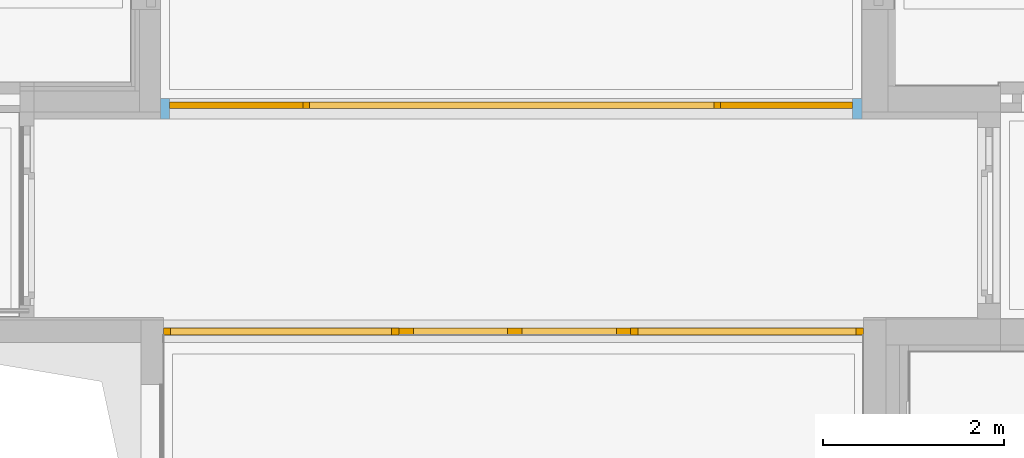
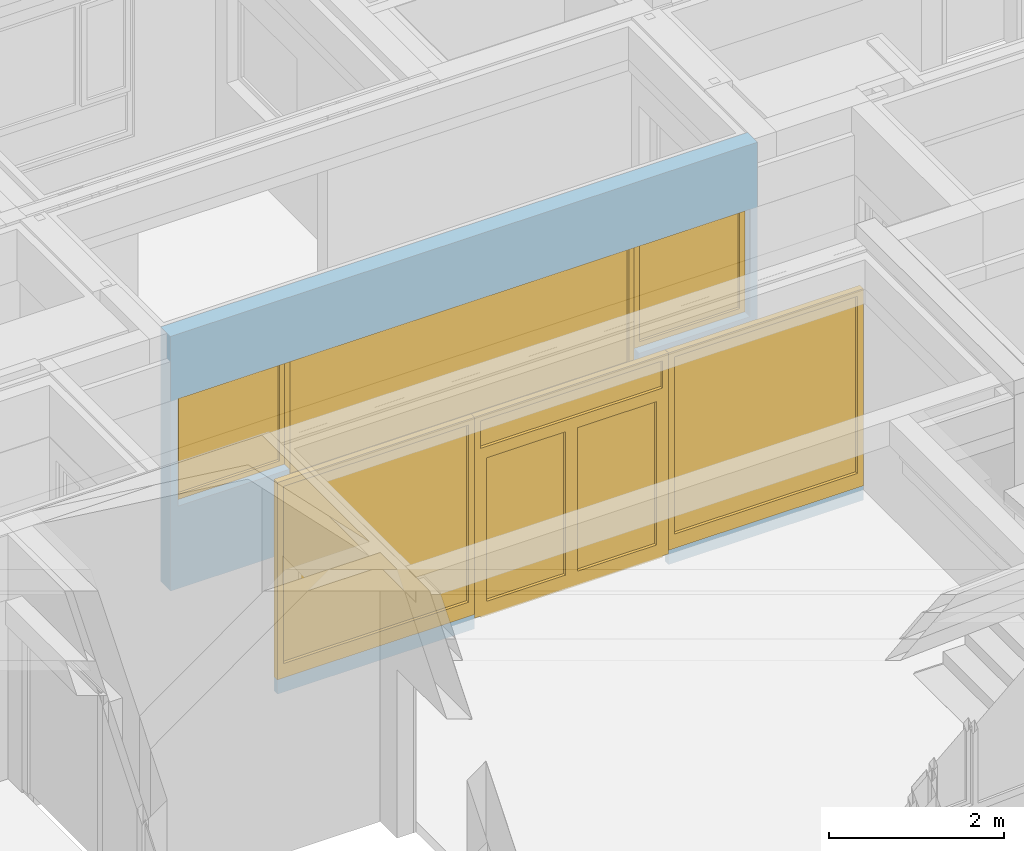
# One storey, part 85 of 222: 5 windows, 1 door, 6 openings, plus 2 elements that do not belong to this part.
"""IFC4 building model written with IfcOpenShell, lengths in metres."""

from ifc_helpers import new_model, entity, si_unit, converted_unit, derived_unit, frame, frame_2d, origin, origin_with_axes, place, context, subcontext, project, spatial, polyline, rectangle, outline, extrude, closed_shell, open_shell, surface_model, source, transform, mapped, material, type_object, element, fill, save


model = new_model("IFC4")

# Units and contexts
model_context = context("Model", 3, precision=1e-05, world=origin())
body_context = subcontext(model_context, "Body", "Model", "MODEL_VIEW")
ifc_project = project(units=[si_unit("LENGTHUNIT", "METRE"), si_unit("AREAUNIT", "SQUARE_METRE"), si_unit("VOLUMEUNIT", "CUBIC_METRE"), si_unit("MASSUNIT", "GRAM", prefix="KILO"), converted_unit("PLANEANGLEUNIT", "DEGREE", entity("IfcPlaneAngleMeasure", 0.0174532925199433), si_unit("PLANEANGLEUNIT", "RADIAN"), dimensions=[0, 0, 0, 0, 0, 0, 0]), derived_unit("THERMALTRANSMITTANCEUNIT", [(si_unit("POWERUNIT", "WATT"), 1), (si_unit("THERMODYNAMICTEMPERATUREUNIT", "KELVIN"), -1), (si_unit("LENGTHUNIT", "METRE"), -2)]), derived_unit("VOLUMETRICFLOWRATEUNIT", [(si_unit("LENGTHUNIT", "METRE"), 3), (converted_unit("TIMEUNIT", "hour", entity("IfcTimeMeasure", 3600.0), si_unit("TIMEUNIT", "SECOND"), dimensions=[0, 0, 1, 0, 0, 0, 0]), -1), (si_unit("LENGTHUNIT", "METRE"), -1)])], contexts=[model_context])

# Site, building, storey
site_placement = place(None, origin())
site = spatial("IfcSite", under=ifc_project, at=site_placement, Name="Psychiatrie Neubau Wunstorf", CompositionType="ELEMENT")
building_placement = place(site_placement, origin())
building = spatial("IfcBuilding", under=site, at=building_placement, Name="Neubau H2 Stationsgebäude", CompositionType="ELEMENT")
storey_placement = place(building_placement, frame((0.0, 0.0, 3.6)))
storey = spatial("IfcBuildingStorey", under=building, at=storey_placement, Name="H2 Ebene +1", CompositionType="ELEMENT", Elevation=3.6)

# Wall, openings, windows
ifc_material_1 = material(Name="WI-LW 60")
wall_1_placement = place(storey_placement, frame((50.5180000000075, 2.74249969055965, 0.0)))
wall_1 = element("IfcWall", 1, at=wall_1_placement, inside=storey, material=ifc_material_1, context=body_context, shape_type="SweptSolid", body=[
    extrude(rectangle(XDim=7.74200007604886, YDim=0.225, at=frame_2d((3.87100003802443, 0.1125), x_axis=(1.0, 0.0))), origin_with_axes(), (0.0, 0.0, 1.0), 3.55),
])
opening_1_placement = place(wall_1_placement, frame((7.64200007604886, 0.225, 1.15), z_axis=(0.0, -1.0, 0.0), x_axis=(0.0, 0.0, 1.0)))
opening_1 = element("IfcOpeningElement", 2, at=opening_1_placement, cuts=wall_1, Name="Fensteröffnung", ObjectType="Opening", context=body_context, shape_type="SweptSolid", body=[
    extrude(outline(polyline([(1.5, 1.4619), (1.5, 0.0), (0.0, 0.0), (0.0, 1.4619), (1.5, 1.4619)])), origin_with_axes(), (0.0, 0.0, 1.0), 0.225),
])
opening_2_placement = place(wall_1_placement, frame((6.18010007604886, 0.225, 0.9), z_axis=(0.0, -1.0, 0.0), x_axis=(0.0, 0.0, 1.0)))
opening_2 = element("IfcOpeningElement", 3, at=opening_2_placement, cuts=wall_1, Name="Fensteröffnung", ObjectType="Opening", context=body_context, shape_type="SweptSolid", body=[
    extrude(outline(polyline([(1.75, 4.6076), (1.75, 0.0), (0.0, 0.0), (0.0, 4.6076), (1.75, 4.6076)])), origin_with_axes(), (0.0, 0.0, 1.0), 0.225),
])
opening_3_placement = place(wall_1_placement, frame((1.57250007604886, 0.225, 1.15), z_axis=(0.0, -1.0, 0.0), x_axis=(0.0, 0.0, 1.0)))
opening_3 = element("IfcOpeningElement", 4, at=opening_3_placement, cuts=wall_1, Name="Fensteröffnung", ObjectType="Opening", context=body_context, shape_type="SweptSolid", body=[
    extrude(outline(polyline([(1.5, 1.4725), (1.5, 0.0), (0.0, 0.0), (0.0, 1.4725), (1.5, 1.4725)])), origin_with_axes(), (0.0, 0.0, 1.0), 0.225),
])
shared_shape_1 = source(origin_with_axes(), body_context, "Body", "SurfaceModel", [
    surface_model("IfcShellBasedSurfaceModel", [(0.0, 0.0, 1.5), (0.07, 0.0, 1.5), (0.07, 0.0, 0.0), (0.0, 0.0, 0.0), (0.0, 0.0700000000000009, 0.0), (0.07, 0.0700000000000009, 0.0), (0.07, 0.0700000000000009, 1.5), (0.0, 0.0700000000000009, 1.5)], [closed_shell([[[0, 1, 2, 3]], [[4, 5, 6, 7]], [[3, 4, 7, 0]], [[2, 5, 4, 3]], [[1, 6, 5, 2]], [[0, 7, 6, 1]]], orient=[[False], [False], [False], [False], [False], [False]])]),
    surface_model("IfcShellBasedSurfaceModel", [(1.3919, 0.0, 1.5), (1.4619, 0.0, 1.5), (1.4619, 0.0, 0.0), (1.3919, 0.0, 0.0), (1.3919, 0.0700000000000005, 0.0), (1.4619, 0.0700000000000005, 0.0), (1.4619, 0.0700000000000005, 1.5), (1.3919, 0.0700000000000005, 1.5)], [closed_shell([[[0, 1, 2, 3]], [[4, 5, 6, 7]], [[3, 4, 7, 0]], [[2, 5, 4, 3]], [[1, 6, 5, 2]], [[0, 7, 6, 1]]], orient=[[False], [False], [False], [False], [False], [False]])]),
    surface_model("IfcShellBasedSurfaceModel", [(0.07, 0.0, 0.07), (1.3919, 0.0, 0.07), (1.3919, 0.0, 0.0), (0.07, 0.0, 0.0), (0.07, 0.0700000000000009, 0.0), (1.3919, 0.0700000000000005, 0.0), (1.3919, 0.0700000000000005, 0.07), (0.07, 0.0700000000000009, 0.07)], [closed_shell([[[0, 1, 2, 3]], [[4, 5, 6, 7]], [[3, 4, 7, 0]], [[2, 5, 4, 3]], [[1, 6, 5, 2]], [[0, 7, 6, 1]]], orient=[[False], [False], [False], [False], [False], [False]])]),
    surface_model("IfcShellBasedSurfaceModel", [(0.07, 0.0, 1.5), (1.3919, 0.0, 1.5), (1.3919, 0.0, 1.43), (0.07, 0.0, 1.43), (0.07, 0.0700000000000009, 1.43), (1.3919, 0.0700000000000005, 1.43), (1.3919, 0.0700000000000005, 1.5), (0.07, 0.0700000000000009, 1.5)], [closed_shell([[[0, 1, 2, 3]], [[4, 5, 6, 7]], [[3, 4, 7, 0]], [[2, 5, 4, 3]], [[1, 6, 5, 2]], [[0, 7, 6, 1]]], orient=[[False], [False], [False], [False], [False], [False]])]),
    surface_model("IfcShellBasedSurfaceModel", [(0.07, 0.0350000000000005, 0.07), (0.07, 0.0350000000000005, 1.43), (1.3919, 0.035, 1.43), (1.3919, 0.035, 0.07)], [open_shell([[[0, 1, 2, 3]]], orient=[[False]])]),
])
window_1_placement = place(opening_1_placement, frame((0.0, 0.0, 0.04), z_axis=(1.0, 0.0, 0.0), x_axis=(0.0, 1.0, 0.0)))
window_1 = element("IfcWindow", 5, at=window_1_placement, inside=storey, Name="Fenster", OverallHeight=1.5, OverallWidth=1.4619, PartitioningType="USERDEFINED", PredefinedType="WINDOW", context=body_context, shape_type="MappedRepresentation", body=[
    mapped(shared_shape_1, transform((0.0, 0.0, 0.0), x_axis=(1.0, 0.0, 0.0), y_axis=(0.0, 1.0, 0.0), z_axis=(0.0, 0.0, 1.0), scale=1.0)),
])
fill(opening_1, window_1)
shared_shape_2 = source(origin_with_axes(), body_context, "Body", "SurfaceModel", [
    surface_model("IfcShellBasedSurfaceModel", [(0.0, 0.0, 1.75), (0.07, 0.0, 1.75), (0.07, 0.0, 0.0), (0.0, 0.0, 0.0), (0.0, 0.0700000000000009, 0.0), (0.07, 0.0700000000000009, 0.0), (0.07, 0.0700000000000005, 1.75), (0.0, 0.0700000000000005, 1.75)], [closed_shell([[[0, 1, 2, 3]], [[4, 5, 6, 7]], [[3, 4, 7, 0]], [[2, 5, 4, 3]], [[1, 6, 5, 2]], [[0, 7, 6, 1]]], orient=[[False], [False], [False], [False], [False], [False]])]),
    surface_model("IfcShellBasedSurfaceModel", [(4.5376, 0.0, 1.75), (4.6076, 0.0, 1.75), (4.6076, 0.0, 0.0), (4.5376, 0.0, 0.0), (4.5376, 0.07, 0.0), (4.6076, 0.0699999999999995, 0.0), (4.6076, 0.0699999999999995, 1.75), (4.5376, 0.0699999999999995, 1.75)], [closed_shell([[[0, 1, 2, 3]], [[4, 5, 6, 7]], [[3, 4, 7, 0]], [[2, 5, 4, 3]], [[1, 6, 5, 2]], [[0, 7, 6, 1]]], orient=[[False], [False], [False], [False], [False], [False]])]),
    surface_model("IfcShellBasedSurfaceModel", [(0.07, 0.0, 0.07), (4.5376, 0.0, 0.07), (4.5376, 0.0, 0.0), (0.07, 0.0, 0.0), (0.07, 0.0700000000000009, 0.0), (4.5376, 0.07, 0.0), (4.5376, 0.0699999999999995, 0.07), (0.07, 0.0700000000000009, 0.07)], [closed_shell([[[0, 1, 2, 3]], [[4, 5, 6, 7]], [[3, 4, 7, 0]], [[2, 5, 4, 3]], [[1, 6, 5, 2]], [[0, 7, 6, 1]]], orient=[[False], [False], [False], [False], [False], [False]])]),
    surface_model("IfcShellBasedSurfaceModel", [(0.07, 0.0, 1.75), (4.5376, 0.0, 1.75), (4.5376, 0.0, 1.68), (0.07, 0.0, 1.68), (0.07, 0.0700000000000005, 1.68), (4.5376, 0.0699999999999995, 1.68), (4.5376, 0.0699999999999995, 1.75), (0.07, 0.0700000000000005, 1.75)], [closed_shell([[[0, 1, 2, 3]], [[4, 5, 6, 7]], [[3, 4, 7, 0]], [[2, 5, 4, 3]], [[1, 6, 5, 2]], [[0, 7, 6, 1]]], orient=[[False], [False], [False], [False], [False], [False]])]),
    surface_model("IfcShellBasedSurfaceModel", [(0.07, 0.0350000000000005, 0.07), (0.07, 0.0350000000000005, 1.68), (4.5376, 0.0349999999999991, 1.68), (4.5376, 0.0349999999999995, 0.07)], [open_shell([[[0, 1, 2, 3]]], orient=[[False]])]),
])
window_2_placement = place(opening_2_placement, frame((0.0, 0.0, 0.04), z_axis=(1.0, 0.0, 0.0), x_axis=(0.0, 1.0, 0.0)))
window_2 = element("IfcWindow", 6, at=window_2_placement, inside=storey, Name="Fenster", OverallHeight=1.75, OverallWidth=4.6076, PartitioningType="USERDEFINED", PredefinedType="WINDOW", context=body_context, shape_type="MappedRepresentation", body=[
    mapped(shared_shape_2, transform((0.0, 0.0, 0.0), x_axis=(1.0, 0.0, 0.0), y_axis=(0.0, 1.0, 0.0), z_axis=(0.0, 0.0, 1.0), scale=1.0)),
])
fill(opening_2, window_2)
shared_shape_3 = source(origin_with_axes(), body_context, "Body", "SurfaceModel", [
    surface_model("IfcShellBasedSurfaceModel", [(0.0, 0.0, 1.5), (0.07, 0.0, 1.5), (0.07, 0.0, 0.0), (0.0, 0.0, 0.0), (0.0, 0.0700000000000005, 0.0), (0.07, 0.0700000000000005, 0.0), (0.07, 0.0700000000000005, 1.5), (0.0, 0.0700000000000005, 1.5)], [closed_shell([[[0, 1, 2, 3]], [[4, 5, 6, 7]], [[3, 4, 7, 0]], [[2, 5, 4, 3]], [[1, 6, 5, 2]], [[0, 7, 6, 1]]], orient=[[False], [False], [False], [False], [False], [False]])]),
    surface_model("IfcShellBasedSurfaceModel", [(1.4025, 0.0, 1.5), (1.4725, 0.0, 1.5), (1.4725, 0.0, 0.0), (1.4025, 0.0, 0.0), (1.4025, 0.07, 0.0), (1.4725, 0.07, 0.0), (1.4725, 0.07, 1.5), (1.4025, 0.07, 1.5)], [closed_shell([[[0, 1, 2, 3]], [[4, 5, 6, 7]], [[3, 4, 7, 0]], [[2, 5, 4, 3]], [[1, 6, 5, 2]], [[0, 7, 6, 1]]], orient=[[False], [False], [False], [False], [False], [False]])]),
    surface_model("IfcShellBasedSurfaceModel", [(0.07, 0.0, 0.07), (1.4025, 0.0, 0.07), (1.4025, 0.0, 0.0), (0.07, 0.0, 0.0), (0.07, 0.0700000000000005, 0.0), (1.4025, 0.07, 0.0), (1.4025, 0.07, 0.07), (0.07, 0.0700000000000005, 0.07)], [closed_shell([[[0, 1, 2, 3]], [[4, 5, 6, 7]], [[3, 4, 7, 0]], [[2, 5, 4, 3]], [[1, 6, 5, 2]], [[0, 7, 6, 1]]], orient=[[False], [False], [False], [False], [False], [False]])]),
    surface_model("IfcShellBasedSurfaceModel", [(0.07, 0.0, 1.5), (1.4025, 0.0, 1.5), (1.4025, 0.0, 1.43), (0.07, 0.0, 1.43), (0.07, 0.0700000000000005, 1.43), (1.4025, 0.07, 1.43), (1.4025, 0.07, 1.5), (0.07, 0.0700000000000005, 1.5)], [closed_shell([[[0, 1, 2, 3]], [[4, 5, 6, 7]], [[3, 4, 7, 0]], [[2, 5, 4, 3]], [[1, 6, 5, 2]], [[0, 7, 6, 1]]], orient=[[False], [False], [False], [False], [False], [False]])]),
    surface_model("IfcShellBasedSurfaceModel", [(0.07, 0.035, 0.07), (0.07, 0.035, 1.43), (1.4025, 0.0349999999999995, 1.43), (1.4025, 0.035, 0.07)], [open_shell([[[0, 1, 2, 3]]], orient=[[False]])]),
])
window_3_placement = place(opening_3_placement, frame((0.0, 0.0, 0.04), z_axis=(1.0, 0.0, 0.0), x_axis=(0.0, 1.0, 0.0)))
window_3 = element("IfcWindow", 7, at=window_3_placement, inside=storey, Name="Fenster", OverallHeight=1.5, OverallWidth=1.4725, PartitioningType="USERDEFINED", PredefinedType="WINDOW", context=body_context, shape_type="MappedRepresentation", body=[
    mapped(shared_shape_3, transform((0.0, 0.0, 0.0), x_axis=(1.0, 0.0, 0.0), y_axis=(0.0, 1.0, 0.0), z_axis=(0.0, 0.0, 1.0), scale=1.0)),
])
fill(opening_3, window_3)

# Wall, openings, windows, door
ifc_material_2 = material(Name="WI-LB")
wall_2_placement = place(storey_placement, frame((50.5500000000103, 0.356002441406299, 0.0)))
wall_2 = element("IfcWall", 8, at=wall_2_placement, inside=storey, material=ifc_material_2, context=body_context, shape_type="SweptSolid", body=[
    extrude(rectangle(XDim=7.7280000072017, YDim=0.08, at=frame_2d((3.86400000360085, 0.04), x_axis=(1.0, 0.0))), origin_with_axes(), (0.0, 0.0, 1.0), 2.92),
])
opening_4_placement = place(wall_2_placement, frame((0.0, 0.0, 0.2), z_axis=(0.0, 1.0, 0.0), x_axis=(0.0, 0.0, 1.0)))
opening_4 = element("IfcOpeningElement", 9, at=opening_4_placement, cuts=wall_2, Name="Fensteröffnung", ObjectType="Opening", context=body_context, shape_type="SweptSolid", body=[
    extrude(outline(polyline([(2.75, 2.5989998), (2.75, 0.0), (0.0, 0.0), (0.0, 2.5989998), (2.75, 2.5989998)])), origin_with_axes(), (0.0, 0.0, 1.0), 0.08),
])
opening_5_placement = place(wall_2_placement, frame((2.59899982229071, 0.0, 0.0), z_axis=(0.0, 1.0, 0.0), x_axis=(0.0, 0.0, 1.0)))
opening_5 = element("IfcOpeningElement", 10, at=opening_5_placement, cuts=wall_2, Name="Türöffnung", ObjectType="Opening", context=body_context, shape_type="SweptSolid", body=[
    extrude(outline(polyline([(2.95, 2.56), (2.95, 0.0), (0.0, 0.0), (0.0, 2.56), (2.95, 2.56)])), origin_with_axes(), (0.0, 0.0, 1.0), 0.08),
])
opening_6_placement = place(wall_2_placement, frame((5.15899982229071, 0.0, 0.2), z_axis=(0.0, 1.0, 0.0), x_axis=(0.0, 0.0, 1.0)))
opening_6 = element("IfcOpeningElement", 11, at=opening_6_placement, cuts=wall_2, Name="Fensteröffnung", ObjectType="Opening", context=body_context, shape_type="SweptSolid", body=[
    extrude(outline(polyline([(2.75, 2.56900018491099), (2.75, 0.0), (0.0, 0.0), (0.0, 2.56900018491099), (2.75, 2.56900018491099)])), origin_with_axes(), (0.0, 0.0, 1.0), 0.08),
])
shared_shape_4 = source(origin_with_axes(), body_context, "Body", "SurfaceModel", [
    surface_model("IfcShellBasedSurfaceModel", [(2.5989998, 0.0, 2.75), (2.5989998, 0.0, 0.0), (2.5189998, 0.0, 0.0), (2.5189998, 0.0, 2.75), (2.5989998, 0.08, 0.0), (2.5989998, 0.0799999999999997, 2.75), (2.5189998, 0.0799999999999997, 2.75), (2.5189998, 0.08, 0.0)], [closed_shell([[[0, 1, 2, 3]], [[4, 5, 6, 7]], [[1, 0, 5, 4]], [[2, 1, 4, 7]], [[3, 2, 7, 6]], [[0, 3, 6, 5]]], orient=[[False], [False], [False], [False], [False], [False]])]),
    surface_model("IfcShellBasedSurfaceModel", [(0.08, 0.0, 2.75), (0.08, 0.0, 0.0), (0.0, 0.0, 0.0), (0.0, 0.0, 2.75), (0.08, 0.0800000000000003, 0.0), (0.08, 0.0799999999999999, 2.75), (0.0, 0.0799999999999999, 2.75), (0.0, 0.0800000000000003, 0.0)], [closed_shell([[[0, 1, 2, 3]], [[4, 5, 6, 7]], [[1, 0, 5, 4]], [[2, 1, 4, 7]], [[3, 2, 7, 6]], [[0, 3, 6, 5]]], orient=[[False], [False], [False], [False], [False], [False]])]),
    surface_model("IfcShellBasedSurfaceModel", [(2.5189998, 0.0, 0.2), (2.5189998, 0.0, 0.0), (0.08, 0.0, 0.0), (0.08, 0.0, 0.2), (2.5189998, 0.08, 0.0), (2.5189998, 0.0799999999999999, 0.2), (0.08, 0.0800000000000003, 0.2), (0.08, 0.0800000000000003, 0.0)], [closed_shell([[[0, 1, 2, 3]], [[4, 5, 6, 7]], [[1, 0, 5, 4]], [[2, 1, 4, 7]], [[3, 2, 7, 6]], [[0, 3, 6, 5]]], orient=[[False], [False], [False], [False], [False], [False]])]),
    surface_model("IfcShellBasedSurfaceModel", [(2.5189998, 0.0, 2.75), (2.5189998, 0.0, 2.67), (0.08, 0.0, 2.67), (0.08, 0.0, 2.75), (2.5189998, 0.0799999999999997, 2.67), (2.5189998, 0.0799999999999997, 2.75), (0.08, 0.0799999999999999, 2.75), (0.08, 0.0799999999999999, 2.67)], [closed_shell([[[0, 1, 2, 3]], [[4, 5, 6, 7]], [[1, 0, 5, 4]], [[2, 1, 4, 7]], [[3, 2, 7, 6]], [[0, 3, 6, 5]]], orient=[[False], [False], [False], [False], [False], [False]])]),
    surface_model("IfcShellBasedSurfaceModel", [(2.5189998, 0.04, 0.2), (0.08, 0.0400000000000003, 0.2), (0.08, 0.04, 2.67), (2.5189998, 0.0399999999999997, 2.67)], [open_shell([[[0, 1, 2, 3]]], orient=[[False]])]),
])
window_4_placement = place(opening_4_placement, frame((0.0, 0.0, 0.0), z_axis=(1.0, 0.0, 0.0), x_axis=(0.0, 1.0, 0.0)))
window_4 = element("IfcWindow", 12, at=window_4_placement, inside=storey, Name="Fenster", OverallHeight=2.75, OverallWidth=2.599, PartitioningType="USERDEFINED", PredefinedType="WINDOW", context=body_context, shape_type="MappedRepresentation", body=[
    mapped(shared_shape_4, transform((0.0, 0.0, 0.0), x_axis=(1.0, 0.0, 0.0), y_axis=(0.0, 1.0, 0.0), z_axis=(0.0, 0.0, 1.0), scale=1.0)),
])
fill(opening_4, window_4)
ifc_material_3 = material(Name="TI-2F-SG-D")
door_type = type_object("IfcDoorType", Name="SMT", OperationType="DOUBLE_DOOR_SINGLE_SWING", ParameterTakesPrecedence=False, PredefinedType="DOOR")
shared_shape_5 = source(origin_with_axes(), body_context, "Body", "SurfaceModel", [
    surface_model("IfcShellBasedSurfaceModel", [(2.56, 0.0, 2.95), (2.56, 0.0, 0.15), (2.48, 0.0, 0.15), (2.48, 0.0, 2.95), (2.56, 0.08, 0.15), (2.56, 0.0799999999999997, 2.95), (2.48, 0.0799999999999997, 2.95), (2.48, 0.08, 0.15)], [closed_shell([[[0, 1, 2, 3]], [[4, 5, 6, 7]], [[1, 0, 5, 4]], [[2, 1, 4, 7]], [[3, 2, 7, 6]], [[0, 3, 6, 5]]], orient=[[False], [False], [False], [False], [False], [False]])]),
    surface_model("IfcShellBasedSurfaceModel", [(0.08, 0.0, 2.95), (0.08, 0.0, 0.15), (0.0, 0.0, 0.15), (0.0, 0.0, 2.95), (0.08, 0.08, 0.15), (0.08, 0.0799999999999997, 2.95), (0.0, 0.0799999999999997, 2.95), (0.0, 0.08, 0.15)], [closed_shell([[[0, 1, 2, 3]], [[4, 5, 6, 7]], [[1, 0, 5, 4]], [[2, 1, 4, 7]], [[3, 2, 7, 6]], [[0, 3, 6, 5]]], orient=[[False], [False], [False], [False], [False], [False]])]),
    surface_model("IfcShellBasedSurfaceModel", [(2.48, 0.0, 2.95), (2.48, 0.0, 2.87), (0.08, 0.0, 2.87), (0.08, 0.0, 2.95), (2.48, 0.0799999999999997, 2.87), (2.48, 0.0799999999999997, 2.95), (0.08, 0.0799999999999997, 2.95), (0.08, 0.0799999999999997, 2.87)], [closed_shell([[[0, 1, 2, 3]], [[4, 5, 6, 7]], [[1, 0, 5, 4]], [[2, 1, 4, 7]], [[3, 2, 7, 6]], [[0, 3, 6, 5]]], orient=[[False], [False], [False], [False], [False], [False]])]),
    surface_model("IfcShellBasedSurfaceModel", [(2.48, 0.0, 2.49), (2.48, 0.0, 2.41), (0.08, 0.0, 2.41), (0.08, 0.0, 2.49), (2.48, 0.0799999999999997, 2.41), (2.48, 0.0799999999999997, 2.49), (0.08, 0.0799999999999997, 2.49), (0.08, 0.0799999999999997, 2.41)], [closed_shell([[[0, 1, 2, 3]], [[4, 5, 6, 7]], [[1, 0, 5, 4]], [[2, 1, 4, 7]], [[3, 2, 7, 6]], [[0, 3, 6, 5]]], orient=[[False], [False], [False], [False], [False], [False]])]),
    surface_model("IfcShellBasedSurfaceModel", [(2.48, 0.0399999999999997, 2.49), (0.08, 0.0399999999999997, 2.49), (0.08, 0.0399999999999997, 2.87), (2.48, 0.0399999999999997, 2.87)], [open_shell([[[0, 1, 2, 3]]], orient=[[False]])]),
    surface_model("IfcShellBasedSurfaceModel", [(2.48, 0.0, 2.41), (2.48, 0.0, 0.13), (2.4, 0.0, 0.13), (2.4, 0.0, 2.41), (2.48, 0.08, 0.13), (2.48, 0.0799999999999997, 2.41), (2.4, 0.0799999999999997, 2.41), (2.4, 0.08, 0.13)], [closed_shell([[[0, 1, 2, 3]], [[4, 5, 6, 7]], [[1, 0, 5, 4]], [[2, 1, 4, 7]], [[3, 2, 7, 6]], [[0, 3, 6, 5]]], orient=[[False], [False], [False], [False], [False], [False]])]),
    surface_model("IfcShellBasedSurfaceModel", [(1.3605, 0.0, 2.41), (1.3605, 0.0, 0.13), (1.2805, 0.0, 0.13), (1.2805, 0.0, 2.41), (1.3605, 0.08, 0.13), (1.3605, 0.0799999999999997, 2.41), (1.2805, 0.0799999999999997, 2.41), (1.2805, 0.08, 0.13)], [closed_shell([[[0, 1, 2, 3]], [[4, 5, 6, 7]], [[1, 0, 5, 4]], [[2, 1, 4, 7]], [[3, 2, 7, 6]], [[0, 3, 6, 5]]], orient=[[False], [False], [False], [False], [False], [False]])]),
    surface_model("IfcShellBasedSurfaceModel", [(2.4, 0.0, 0.33), (2.4, 0.0, 0.13), (1.3605, 0.0, 0.13), (1.3605, 0.0, 0.33), (2.4, 0.08, 0.13), (2.4, 0.0799999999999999, 0.33), (1.3605, 0.0799999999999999, 0.33), (1.3605, 0.08, 0.13)], [closed_shell([[[0, 1, 2, 3]], [[4, 5, 6, 7]], [[1, 0, 5, 4]], [[2, 1, 4, 7]], [[3, 2, 7, 6]], [[0, 3, 6, 5]]], orient=[[False], [False], [False], [False], [False], [False]])]),
    surface_model("IfcShellBasedSurfaceModel", [(2.4, 0.0, 2.41), (2.4, 0.0, 2.33), (1.3605, 0.0, 2.33), (1.3605, 0.0, 2.41), (2.4, 0.0799999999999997, 2.33), (2.4, 0.0799999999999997, 2.41), (1.3605, 0.0799999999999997, 2.41), (1.3605, 0.0799999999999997, 2.33)], [closed_shell([[[0, 1, 2, 3]], [[4, 5, 6, 7]], [[1, 0, 5, 4]], [[2, 1, 4, 7]], [[3, 2, 7, 6]], [[0, 3, 6, 5]]], orient=[[False], [False], [False], [False], [False], [False]])]),
    surface_model("IfcShellBasedSurfaceModel", [(1.2795, 0.0, 2.41), (1.2795, 0.0, 0.13), (1.1995, 0.0, 0.13), (1.1995, 0.0, 2.41), (1.2795, 0.08, 0.13), (1.2795, 0.0799999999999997, 2.41), (1.1995, 0.0799999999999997, 2.41), (1.1995, 0.08, 0.13)], [closed_shell([[[0, 1, 2, 3]], [[4, 5, 6, 7]], [[1, 0, 5, 4]], [[2, 1, 4, 7]], [[3, 2, 7, 6]], [[0, 3, 6, 5]]], orient=[[False], [False], [False], [False], [False], [False]])]),
    surface_model("IfcShellBasedSurfaceModel", [(0.16, 0.0, 2.41), (0.16, 0.0, 0.13), (0.08, 0.0, 0.13), (0.08, 0.0, 2.41), (0.16, 0.08, 0.13), (0.16, 0.0799999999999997, 2.41), (0.08, 0.0799999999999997, 2.41), (0.08, 0.08, 0.13)], [closed_shell([[[0, 1, 2, 3]], [[4, 5, 6, 7]], [[1, 0, 5, 4]], [[2, 1, 4, 7]], [[3, 2, 7, 6]], [[0, 3, 6, 5]]], orient=[[False], [False], [False], [False], [False], [False]])]),
    surface_model("IfcShellBasedSurfaceModel", [(1.1995, 0.0, 0.33), (1.1995, 0.0, 0.13), (0.16, 0.0, 0.13), (0.16, 0.0, 0.33), (1.1995, 0.08, 0.13), (1.1995, 0.0799999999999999, 0.33), (0.16, 0.0799999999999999, 0.33), (0.16, 0.08, 0.13)], [closed_shell([[[0, 1, 2, 3]], [[4, 5, 6, 7]], [[1, 0, 5, 4]], [[2, 1, 4, 7]], [[3, 2, 7, 6]], [[0, 3, 6, 5]]], orient=[[False], [False], [False], [False], [False], [False]])]),
    surface_model("IfcShellBasedSurfaceModel", [(1.1995, 0.0, 2.41), (1.1995, 0.0, 2.33), (0.16, 0.0, 2.33), (0.16, 0.0, 2.41), (1.1995, 0.0799999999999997, 2.33), (1.1995, 0.0799999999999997, 2.41), (0.16, 0.0799999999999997, 2.41), (0.16, 0.0799999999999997, 2.33)], [closed_shell([[[0, 1, 2, 3]], [[4, 5, 6, 7]], [[1, 0, 5, 4]], [[2, 1, 4, 7]], [[3, 2, 7, 6]], [[0, 3, 6, 5]]], orient=[[False], [False], [False], [False], [False], [False]])]),
    surface_model("IfcShellBasedSurfaceModel", [(2.4, 0.0399999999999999, 0.33), (1.3605, 0.0399999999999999, 0.33), (1.3605, 0.0399999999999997, 2.33), (2.4, 0.0399999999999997, 2.33)], [open_shell([[[0, 1, 2, 3]]], orient=[[False]])]),
    surface_model("IfcShellBasedSurfaceModel", [(1.1995, 0.0399999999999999, 0.33), (0.16, 0.0399999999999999, 0.33), (0.16, 0.0399999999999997, 2.33), (1.1995, 0.0399999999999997, 2.33)], [open_shell([[[0, 1, 2, 3]]], orient=[[False]])]),
])
door_placement = place(opening_5_placement, frame((0.0, 2.56, 0.08), z_axis=(1.0, 0.0, 0.0), x_axis=(0.0, -1.0, 0.0)))
door = element("IfcDoor", 13, at=door_placement, inside=storey, type_object=door_type, material=ifc_material_3, Name="SMT", OverallHeight=2.95, OverallWidth=2.56, context=body_context, shape_type="MappedRepresentation", body=[
    mapped(shared_shape_5, transform((0.0, 0.0, 0.0), x_axis=(1.0, 0.0, 0.0), y_axis=(0.0, 1.0, 0.0), z_axis=(0.0, 0.0, 1.0), scale=1.0)),
])
fill(opening_5, door)
shared_shape_6 = source(origin_with_axes(), body_context, "Body", "SurfaceModel", [
    surface_model("IfcShellBasedSurfaceModel", [(2.56900018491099, 0.0, 2.75), (2.56900018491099, 0.0, 0.0), (2.48900018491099, 0.0, 0.0), (2.48900018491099, 0.0, 2.75), (2.56900018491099, 0.08, 0.0), (2.56900018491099, 0.0799999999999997, 2.75), (2.48900018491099, 0.0799999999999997, 2.75), (2.48900018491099, 0.08, 0.0)], [closed_shell([[[0, 1, 2, 3]], [[4, 5, 6, 7]], [[1, 0, 5, 4]], [[2, 1, 4, 7]], [[3, 2, 7, 6]], [[0, 3, 6, 5]]], orient=[[False], [False], [False], [False], [False], [False]])]),
    surface_model("IfcShellBasedSurfaceModel", [(0.08, 0.0, 2.75), (0.08, 0.0, 0.0), (0.0, 0.0, 0.0), (0.0, 0.0, 2.75), (0.08, 0.0800000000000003, 0.0), (0.08, 0.0799999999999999, 2.75), (0.0, 0.0799999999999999, 2.75), (0.0, 0.0800000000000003, 0.0)], [closed_shell([[[0, 1, 2, 3]], [[4, 5, 6, 7]], [[1, 0, 5, 4]], [[2, 1, 4, 7]], [[3, 2, 7, 6]], [[0, 3, 6, 5]]], orient=[[False], [False], [False], [False], [False], [False]])]),
    surface_model("IfcShellBasedSurfaceModel", [(2.48900018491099, 0.0, 0.2), (2.48900018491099, 0.0, 0.0), (0.08, 0.0, 0.0), (0.08, 0.0, 0.2), (2.48900018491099, 0.08, 0.0), (2.48900018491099, 0.0799999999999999, 0.2), (0.08, 0.0800000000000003, 0.2), (0.08, 0.0800000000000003, 0.0)], [closed_shell([[[0, 1, 2, 3]], [[4, 5, 6, 7]], [[1, 0, 5, 4]], [[2, 1, 4, 7]], [[3, 2, 7, 6]], [[0, 3, 6, 5]]], orient=[[False], [False], [False], [False], [False], [False]])]),
    surface_model("IfcShellBasedSurfaceModel", [(2.48900018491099, 0.0, 2.75), (2.48900018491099, 0.0, 2.67), (0.08, 0.0, 2.67), (0.08, 0.0, 2.75), (2.48900018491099, 0.0799999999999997, 2.67), (2.48900018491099, 0.0799999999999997, 2.75), (0.08, 0.0799999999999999, 2.75), (0.08, 0.0799999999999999, 2.67)], [closed_shell([[[0, 1, 2, 3]], [[4, 5, 6, 7]], [[1, 0, 5, 4]], [[2, 1, 4, 7]], [[3, 2, 7, 6]], [[0, 3, 6, 5]]], orient=[[False], [False], [False], [False], [False], [False]])]),
    surface_model("IfcShellBasedSurfaceModel", [(2.48900018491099, 0.04, 0.2), (0.08, 0.0400000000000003, 0.2), (0.08, 0.04, 2.67), (2.48900018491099, 0.0399999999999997, 2.67)], [open_shell([[[0, 1, 2, 3]]], orient=[[False]])]),
])
window_5_placement = place(opening_6_placement, frame((0.0, 0.0, 0.0), z_axis=(1.0, 0.0, 0.0), x_axis=(0.0, 1.0, 0.0)))
window_5 = element("IfcWindow", 14, at=window_5_placement, inside=storey, Name="Fenster", OverallHeight=2.75, OverallWidth=2.569, PartitioningType="USERDEFINED", PredefinedType="WINDOW", context=body_context, shape_type="MappedRepresentation", body=[
    mapped(shared_shape_6, transform((0.0, 0.0, 0.0), x_axis=(1.0, 0.0, 0.0), y_axis=(0.0, 1.0, 0.0), z_axis=(0.0, 0.0, 1.0), scale=1.0)),
])
fill(opening_6, window_5)

save(model, "model.ifc")
